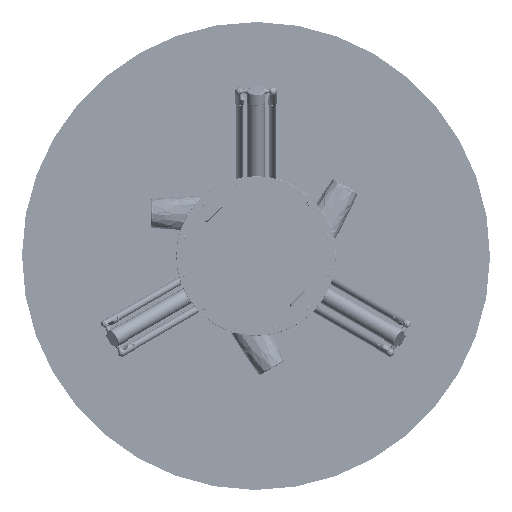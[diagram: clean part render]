
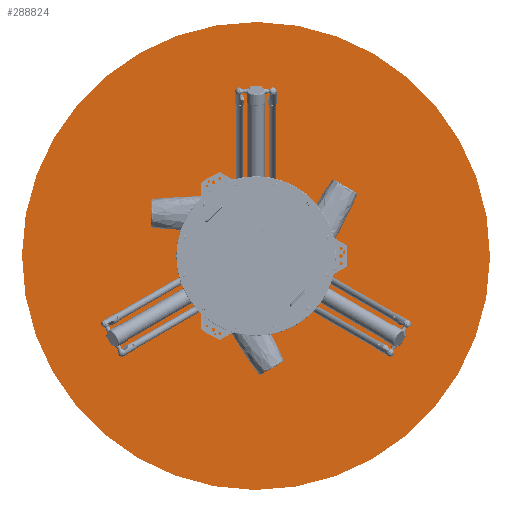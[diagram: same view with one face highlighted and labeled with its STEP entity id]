
A CAD part, front view. The second image highlights one B-rep face of the part: STEP entity #288824.
In plain terms, the highlighted planar face has unit normal (0, -1, 0) as drawn and (0, 1, 0) by its records, which use the part's own axes.
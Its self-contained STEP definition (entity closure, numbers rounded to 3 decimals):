
#67289 = EDGE_CURVE ( 'NONE', #116375, #116375, #252130, .T. ) ;
#102000 = AXIS2_PLACEMENT_3D ( 'NONE', #107682, #277254, #278307 ) ;
#107682 = CARTESIAN_POINT ( 'NONE',  ( 0., 710., 0. ) ) ;
#116375 = VERTEX_POINT ( 'NONE', #189962 ) ;
#119910 = DIRECTION ( 'NONE',  ( 0., 0., -1. ) ) ;
#122976 = PLANE ( 'NONE',  #195655 ) ;
#147052 = DIRECTION ( 'NONE',  ( 0., -1., 0. ) ) ;
#189962 = CARTESIAN_POINT ( 'NONE',  ( 0., 710., 1100. ) ) ;
#192529 = ORIENTED_EDGE ( 'NONE', *, *, #67289, .T. ) ;
#195655 = AXIS2_PLACEMENT_3D ( 'NONE', #290482, #147052, #119910 ) ;
#231410 = EDGE_LOOP ( 'NONE', ( #192529 ) ) ;
#252130 = CIRCLE ( 'NONE', #102000, 1100. ) ;
#277254 = DIRECTION ( 'NONE',  ( 0., 1., 0. ) ) ;
#278307 = DIRECTION ( 'NONE',  ( 0., 0., 1. ) ) ;
#288824 = ADVANCED_FACE ( 'NONE', ( #297404 ), #122976, .F. ) ;
#290482 = CARTESIAN_POINT ( 'NONE',  ( 0., 710., 0. ) ) ;
#297404 = FACE_OUTER_BOUND ( 'NONE', #231410, .T. ) ;
